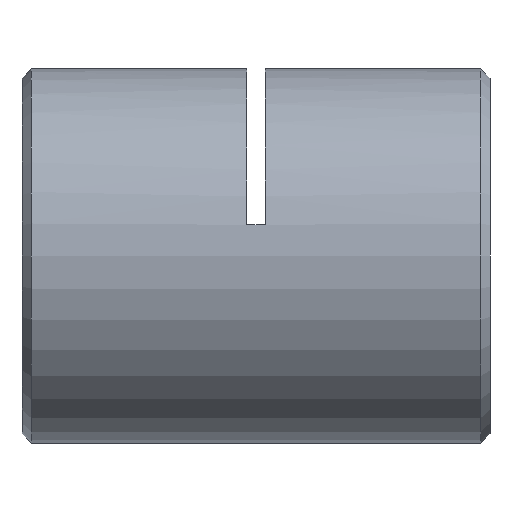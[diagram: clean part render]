
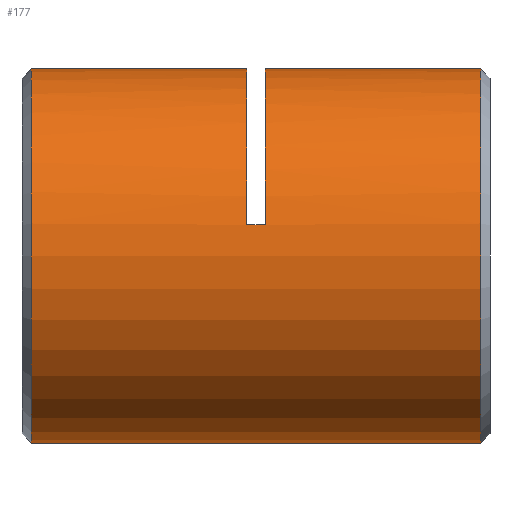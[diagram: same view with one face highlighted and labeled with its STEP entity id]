
A CAD part, left-side view. The second image highlights one B-rep face of the part: STEP entity #177.
In plain terms, the highlighted cylindrical face has radius 10 mm (diameter 20 mm), a partial arc.
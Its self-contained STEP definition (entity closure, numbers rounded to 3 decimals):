
#60 = ORIENTED_EDGE ( 'NONE', *, *, #2360, .T. ) ;
#90 = DIRECTION ( 'NONE',  ( 0., 0., 1. ) ) ;
#118 = EDGE_CURVE ( 'NONE', #2720, #2378, #2598, .T. ) ;
#128 = CARTESIAN_POINT ( 'NONE',  ( 0., 0., -10. ) ) ;
#161 = CARTESIAN_POINT ( 'NONE',  ( 0., 0.75, 10. ) ) ;
#177 = ADVANCED_FACE ( 'NONE', ( #2411 ), #1183, .T. ) ;
#344 = AXIS2_PLACEMENT_3D ( 'NONE', #1515, #377, #2681 ) ;
#377 = DIRECTION ( 'NONE',  ( 0., 1., 0. ) ) ;
#575 = VECTOR ( 'NONE', #1985, 1000. ) ;
#660 = EDGE_CURVE ( 'NONE', #2720, #2737, #3499, .T. ) ;
#687 = DIRECTION ( 'NONE',  ( 0., 1., 0. ) ) ;
#779 = AXIS2_PLACEMENT_3D ( 'NONE', #966, #1863, #90 ) ;
#804 = DIRECTION ( 'NONE',  ( 0., 1., 0. ) ) ;
#815 = EDGE_CURVE ( 'NONE', #2381, #3690, #2368, .T. ) ;
#820 = EDGE_CURVE ( 'NONE', #2381, #1673, #3451, .T. ) ;
#821 = ORIENTED_EDGE ( 'NONE', *, *, #118, .T. ) ;
#827 = AXIS2_PLACEMENT_3D ( 'NONE', #2827, #804, #3415 ) ;
#831 = LINE ( 'NONE', #1326, #1896 ) ;
#924 = CIRCLE ( 'NONE', #2990, 10. ) ;
#966 = CARTESIAN_POINT ( 'NONE',  ( 0., 0.75, 0. ) ) ;
#1114 = ORIENTED_EDGE ( 'NONE', *, *, #820, .T. ) ;
#1136 = DIRECTION ( 'NONE',  ( 0., 0., -1. ) ) ;
#1183 = CYLINDRICAL_SURFACE ( 'NONE', #827, 10. ) ;
#1208 = VECTOR ( 'NONE', #3248, 1000. ) ;
#1306 = EDGE_CURVE ( 'NONE', #2378, #3637, #2452, .T. ) ;
#1314 = CARTESIAN_POINT ( 'NONE',  ( -9.86, 13.25, 1.667 ) ) ;
#1326 = CARTESIAN_POINT ( 'NONE',  ( 0., 0., 10. ) ) ;
#1481 = CARTESIAN_POINT ( 'NONE',  ( -9.86, 12.25, 1.667 ) ) ;
#1515 = CARTESIAN_POINT ( 'NONE',  ( 0., 12.25, 0. ) ) ;
#1650 = DIRECTION ( 'NONE',  ( 0., 1., 0. ) ) ;
#1673 = VERTEX_POINT ( 'NONE', #161 ) ;
#1675 = CARTESIAN_POINT ( 'NONE',  ( -9.86, 12.75, 1.667 ) ) ;
#1863 = DIRECTION ( 'NONE',  ( 0., 1., 0. ) ) ;
#1896 = VECTOR ( 'NONE', #2476, 1000. ) ;
#1985 = DIRECTION ( 'NONE',  ( 0., 1., 0. ) ) ;
#1987 = CARTESIAN_POINT ( 'NONE',  ( 0., 24.75, 0. ) ) ;
#2062 = ORIENTED_EDGE ( 'NONE', *, *, #1306, .T. ) ;
#2264 = CARTESIAN_POINT ( 'NONE',  ( 0., 13.25, 0. ) ) ;
#2271 = CARTESIAN_POINT ( 'NONE',  ( 0., 24.75, 10. ) ) ;
#2283 = ORIENTED_EDGE ( 'NONE', *, *, #2759, .T. ) ;
#2360 = EDGE_CURVE ( 'NONE', #3637, #3599, #831, .T. ) ;
#2368 = LINE ( 'NONE', #128, #2856 ) ;
#2378 = VERTEX_POINT ( 'NONE', #1314 ) ;
#2381 = VERTEX_POINT ( 'NONE', #2751 ) ;
#2383 = ORIENTED_EDGE ( 'NONE', *, *, #3633, .T. ) ;
#2411 = FACE_OUTER_BOUND ( 'NONE', #3420, .T. ) ;
#2452 = CIRCLE ( 'NONE', #3187, 10. ) ;
#2476 = DIRECTION ( 'NONE',  ( 0., 1., 0. ) ) ;
#2532 = ORIENTED_EDGE ( 'NONE', *, *, #660, .F. ) ;
#2598 = LINE ( 'NONE', #1675, #575 ) ;
#2681 = DIRECTION ( 'NONE',  ( 0., 0., 1. ) ) ;
#2701 = ORIENTED_EDGE ( 'NONE', *, *, #815, .F. ) ;
#2720 = VERTEX_POINT ( 'NONE', #1481 ) ;
#2737 = VERTEX_POINT ( 'NONE', #3512 ) ;
#2751 = CARTESIAN_POINT ( 'NONE',  ( 0., 0.75, -10. ) ) ;
#2759 = EDGE_CURVE ( 'NONE', #1673, #2737, #3569, .T. ) ;
#2827 = CARTESIAN_POINT ( 'NONE',  ( 0., 0., 0. ) ) ;
#2856 = VECTOR ( 'NONE', #687, 1000. ) ;
#2864 = CARTESIAN_POINT ( 'NONE',  ( 0., 13.25, 10. ) ) ;
#2990 = AXIS2_PLACEMENT_3D ( 'NONE', #1987, #3175, #1136 ) ;
#3175 = DIRECTION ( 'NONE',  ( 0., -1., 0. ) ) ;
#3187 = AXIS2_PLACEMENT_3D ( 'NONE', #2264, #1650, #3411 ) ;
#3238 = CARTESIAN_POINT ( 'NONE',  ( 0., 0., 10. ) ) ;
#3248 = DIRECTION ( 'NONE',  ( 0., 1., 0. ) ) ;
#3411 = DIRECTION ( 'NONE',  ( 0., 0., 1. ) ) ;
#3415 = DIRECTION ( 'NONE',  ( 0., 0., 1. ) ) ;
#3420 = EDGE_LOOP ( 'NONE', ( #2701, #1114, #2283, #2532, #821, #2062, #60, #2383 ) ) ;
#3451 = CIRCLE ( 'NONE', #779, 10. ) ;
#3499 = CIRCLE ( 'NONE', #344, 10. ) ;
#3512 = CARTESIAN_POINT ( 'NONE',  ( 0., 12.25, 10. ) ) ;
#3528 = CARTESIAN_POINT ( 'NONE',  ( 0., 24.75, -10. ) ) ;
#3569 = LINE ( 'NONE', #3238, #1208 ) ;
#3599 = VERTEX_POINT ( 'NONE', #2271 ) ;
#3633 = EDGE_CURVE ( 'NONE', #3599, #3690, #924, .T. ) ;
#3637 = VERTEX_POINT ( 'NONE', #2864 ) ;
#3690 = VERTEX_POINT ( 'NONE', #3528 ) ;
